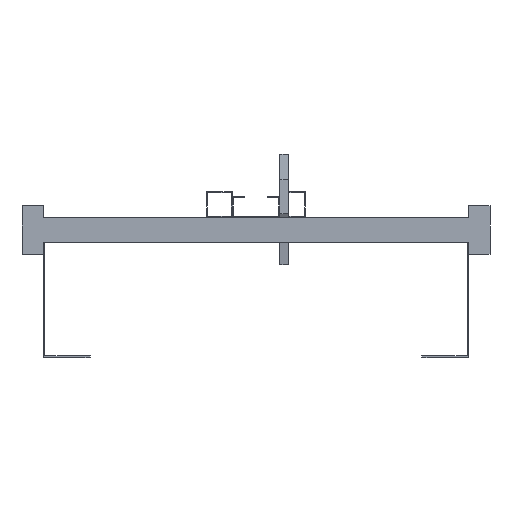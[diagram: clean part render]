
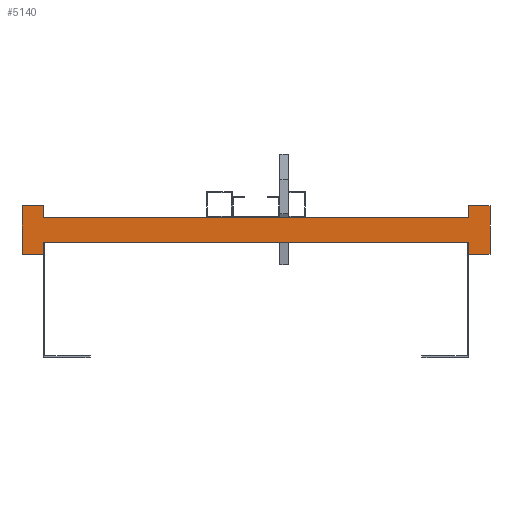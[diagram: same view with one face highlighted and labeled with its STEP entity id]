
A CAD part, front view. The second image highlights one B-rep face of the part: STEP entity #5140.
In plain terms, the highlighted planar face has unit normal (0, -1, 0).
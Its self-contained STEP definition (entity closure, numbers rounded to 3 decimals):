
#1845=DIRECTION('',(0.,0.,1.));
#1846=VECTOR('',#1845,13.5);
#1847=CARTESIAN_POINT('',(250.,0.,-28.5));
#1848=LINE('',#1847,#1846);
#1849=DIRECTION('',(0.,0.,-1.));
#1850=VECTOR('',#1849,13.5);
#1851=CARTESIAN_POINT('',(-250.,0.,-15.));
#1852=LINE('',#1851,#1850);
#1853=DIRECTION('',(-1.,0.,0.));
#1854=VECTOR('',#1853,25.);
#1855=CARTESIAN_POINT('',(-250.,0.,-28.5));
#1856=LINE('',#1855,#1854);
#1857=DIRECTION('',(0.,0.,1.));
#1858=VECTOR('',#1857,57.);
#1859=CARTESIAN_POINT('',(-275.,0.,-28.5));
#1860=LINE('',#1859,#1858);
#1861=DIRECTION('',(1.,0.,0.));
#1862=VECTOR('',#1861,25.);
#1863=CARTESIAN_POINT('',(-275.,0.,28.5));
#1864=LINE('',#1863,#1862);
#1865=DIRECTION('',(0.,0.,-1.));
#1866=VECTOR('',#1865,13.5);
#1867=CARTESIAN_POINT('',(-250.,0.,28.5));
#1868=LINE('',#1867,#1866);
#1869=DIRECTION('',(0.,0.,1.));
#1870=VECTOR('',#1869,13.5);
#1871=CARTESIAN_POINT('',(250.,0.,15.));
#1872=LINE('',#1871,#1870);
#1873=DIRECTION('',(1.,0.,0.));
#1874=VECTOR('',#1873,25.);
#1875=CARTESIAN_POINT('',(250.,0.,28.5));
#1876=LINE('',#1875,#1874);
#1877=DIRECTION('',(0.,0.,-1.));
#1878=VECTOR('',#1877,57.);
#1879=CARTESIAN_POINT('',(275.,0.,28.5));
#1880=LINE('',#1879,#1878);
#1881=DIRECTION('',(-1.,0.,0.));
#1882=VECTOR('',#1881,25.);
#1883=CARTESIAN_POINT('',(275.,0.,-28.5));
#1884=LINE('',#1883,#1882);
#1885=DIRECTION('',(1.,0.,0.));
#1886=VECTOR('',#1885,500.);
#1887=CARTESIAN_POINT('',(-250.,0.,-15.));
#1888=LINE('',#1887,#1886);
#1897=DIRECTION('',(1.,0.,0.));
#1898=VECTOR('',#1897,500.);
#1899=CARTESIAN_POINT('',(-250.,0.,15.));
#1900=LINE('',#1899,#1898);
#1953=CARTESIAN_POINT('',(-275.,0.,28.5));
#1954=CARTESIAN_POINT('',(-250.,0.,28.5));
#1955=VERTEX_POINT('',#1953);
#1956=VERTEX_POINT('',#1954);
#1957=CARTESIAN_POINT('',(-250.,0.,-28.5));
#1958=CARTESIAN_POINT('',(-275.,0.,-28.5));
#1959=VERTEX_POINT('',#1957);
#1960=VERTEX_POINT('',#1958);
#1961=CARTESIAN_POINT('',(275.,0.,28.5));
#1962=CARTESIAN_POINT('',(275.,0.,-28.5));
#1963=VERTEX_POINT('',#1961);
#1964=VERTEX_POINT('',#1962);
#1965=CARTESIAN_POINT('',(250.,0.,-28.5));
#1966=VERTEX_POINT('',#1965);
#1967=CARTESIAN_POINT('',(250.,0.,28.5));
#1968=VERTEX_POINT('',#1967);
#1985=CARTESIAN_POINT('',(-250.,0.,-15.));
#1987=VERTEX_POINT('',#1985);
#1989=CARTESIAN_POINT('',(-250.,0.,15.));
#1991=VERTEX_POINT('',#1989);
#1993=CARTESIAN_POINT('',(250.,0.,-15.));
#1995=VERTEX_POINT('',#1993);
#1997=CARTESIAN_POINT('',(250.,0.,15.));
#1999=VERTEX_POINT('',#1997);
#5115=CARTESIAN_POINT('',(0.,0.,0.));
#5116=DIRECTION('',(0.,1.,0.));
#5117=DIRECTION('',(1.,0.,0.));
#5118=AXIS2_PLACEMENT_3D('',#5115,#5116,#5117);
#5119=PLANE('',#5118);
#5120=ORIENTED_EDGE('',*,*,#2941,.T.);
#5122=ORIENTED_EDGE('',*,*,#5121,.F.);
#5123=ORIENTED_EDGE('',*,*,#2633,.T.);
#5124=ORIENTED_EDGE('',*,*,#4106,.T.);
#5126=ORIENTED_EDGE('',*,*,#5125,.T.);
#5128=ORIENTED_EDGE('',*,*,#5127,.T.);
#5129=ORIENTED_EDGE('',*,*,#2641,.T.);
#5131=ORIENTED_EDGE('',*,*,#5130,.T.);
#5132=ORIENTED_EDGE('',*,*,#2933,.T.);
#5134=ORIENTED_EDGE('',*,*,#5133,.T.);
#5136=ORIENTED_EDGE('',*,*,#5135,.T.);
#5137=ORIENTED_EDGE('',*,*,#4423,.T.);
#5138=EDGE_LOOP('',(#5120,#5122,#5123,#5124,#5126,#5128,#5129,#5131,#5132,#5134,
#5136,#5137));
#5139=FACE_OUTER_BOUND('',#5138,.F.);
#2633=EDGE_CURVE('',#1987,#1959,#1852,.T.);
#2641=EDGE_CURVE('',#1956,#1991,#1868,.T.);
#2933=EDGE_CURVE('',#1999,#1968,#1872,.T.);
#2941=EDGE_CURVE('',#1966,#1995,#1848,.T.);
#4106=EDGE_CURVE('',#1959,#1960,#1856,.T.);
#4423=EDGE_CURVE('',#1964,#1966,#1884,.T.);
#5121=EDGE_CURVE('',#1987,#1995,#1888,.T.);
#5125=EDGE_CURVE('',#1960,#1955,#1860,.T.);
#5127=EDGE_CURVE('',#1955,#1956,#1864,.T.);
#5130=EDGE_CURVE('',#1991,#1999,#1900,.T.);
#5133=EDGE_CURVE('',#1968,#1963,#1876,.T.);
#5135=EDGE_CURVE('',#1963,#1964,#1880,.T.);
#5140=ADVANCED_FACE('',(#5139),#5119,.F.);
